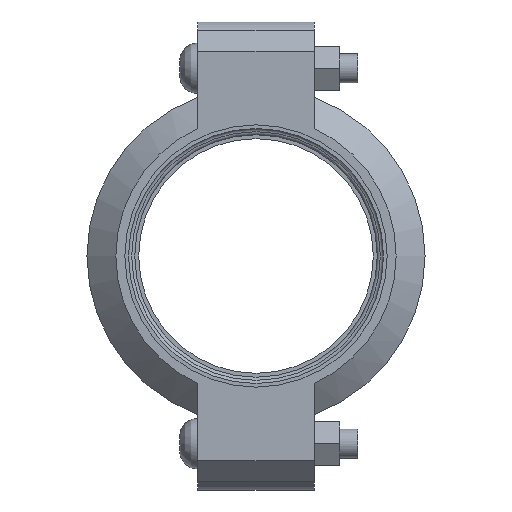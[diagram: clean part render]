
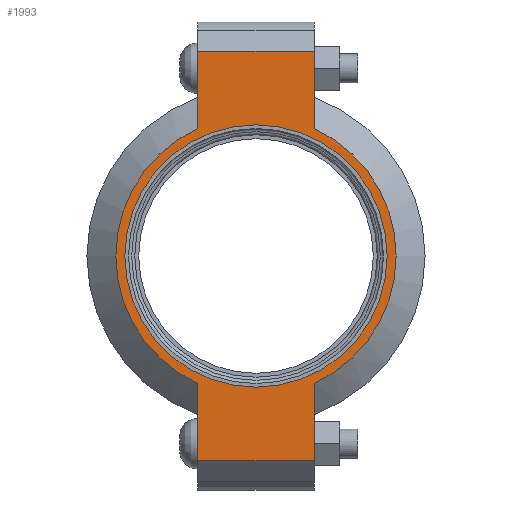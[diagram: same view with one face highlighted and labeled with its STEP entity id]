
A CAD part, left-side view. The second image highlights one B-rep face of the part: STEP entity #1993.
In plain terms, the highlighted planar face has unit normal (-1, 0, 0) as drawn and (0, 0, 1) by its records, which use the part's own axes.
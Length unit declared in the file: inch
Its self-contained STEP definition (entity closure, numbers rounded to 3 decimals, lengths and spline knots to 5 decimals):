
#126=LINE('',#3556,#225);
#134=LINE('',#3592,#233);
#141=LINE('',#3613,#240);
#150=LINE('',#3645,#249);
#151=LINE('',#3649,#250);
#152=LINE('',#3651,#251);
#225=VECTOR('',#2922,0.3937);
#233=VECTOR('',#2938,0.3937);
#240=VECTOR('',#2957,0.3937);
#249=VECTOR('',#2982,0.3937);
#250=VECTOR('',#2987,0.3937);
#251=VECTOR('',#2988,0.3937);
#311=FACE_BOUND('',#581,.T.);
#357=PLANE('',#2358);
#453=FACE_OUTER_BOUND('',#580,.T.);
#580=EDGE_LOOP('',(#1722,#1723,#1724,#1725,#1726,#1727,#1728,#1729));
#581=EDGE_LOOP('',(#1730));
#728=CIRCLE('',#2300,2.25);
#754=CIRCLE('',#2359,2.405);
#755=CIRCLE('',#2360,2.405);
#879=VERTEX_POINT('',#3372);
#922=VERTEX_POINT('',#3553);
#923=VERTEX_POINT('',#3555);
#934=VERTEX_POINT('',#3587);
#935=VERTEX_POINT('',#3591);
#942=VERTEX_POINT('',#3610);
#943=VERTEX_POINT('',#3612);
#953=VERTEX_POINT('',#3648);
#954=VERTEX_POINT('',#3650);
#1116=EDGE_CURVE('',#879,#879,#728,.T.);
#1177=EDGE_CURVE('',#923,#922,#126,.T.);
#1191=EDGE_CURVE('',#935,#934,#134,.T.);
#1201=EDGE_CURVE('',#943,#942,#141,.T.);
#1216=EDGE_CURVE('',#935,#922,#150,.T.);
#1217=EDGE_CURVE('',#934,#943,#754,.T.);
#1218=EDGE_CURVE('',#953,#942,#151,.T.);
#1219=EDGE_CURVE('',#953,#954,#152,.T.);
#1220=EDGE_CURVE('',#954,#923,#755,.T.);
#1722=ORIENTED_EDGE('',*,*,#1216,.F.);
#1723=ORIENTED_EDGE('',*,*,#1191,.T.);
#1724=ORIENTED_EDGE('',*,*,#1217,.T.);
#1725=ORIENTED_EDGE('',*,*,#1201,.T.);
#1726=ORIENTED_EDGE('',*,*,#1218,.F.);
#1727=ORIENTED_EDGE('',*,*,#1219,.T.);
#1728=ORIENTED_EDGE('',*,*,#1220,.T.);
#1729=ORIENTED_EDGE('',*,*,#1177,.T.);
#1730=ORIENTED_EDGE('',*,*,#1116,.T.);
#1993=ADVANCED_FACE('',(#453,#311),#357,.T.);
#2300=AXIS2_PLACEMENT_3D('',#3374,#2798,#2799);
#2358=AXIS2_PLACEMENT_3D('',#3646,#2983,#2984);
#2359=AXIS2_PLACEMENT_3D('',#3647,#2985,#2986);
#2360=AXIS2_PLACEMENT_3D('',#3652,#2989,#2990);
#2798=DIRECTION('center_axis',(0.,0.,-1.));
#2799=DIRECTION('ref_axis',(1.,0.,0.));
#2922=DIRECTION('',(1.,0.,0.));
#2938=DIRECTION('',(-1.,0.,0.));
#2957=DIRECTION('',(-1.,0.,0.));
#2982=DIRECTION('',(0.,-1.,0.));
#2983=DIRECTION('center_axis',(0.,0.,1.));
#2984=DIRECTION('ref_axis',(-1.,0.,0.));
#2985=DIRECTION('center_axis',(0.,0.,1.));
#2986=DIRECTION('ref_axis',(1.,0.,0.));
#2987=DIRECTION('',(0.,1.,0.));
#2988=DIRECTION('',(1.,0.,0.));
#2989=DIRECTION('center_axis',(0.,0.,1.));
#2990=DIRECTION('ref_axis',(1.,0.,0.));
#3372=CARTESIAN_POINT('',(-2.25,0.,1.065));
#3374=CARTESIAN_POINT('Origin',(0.,0.,1.065));
#3553=CARTESIAN_POINT('',(3.515,-1.,1.065));
#3555=CARTESIAN_POINT('',(2.18724,-1.,1.065));
#3556=CARTESIAN_POINT('',(4.015,-1.,1.065));
#3587=CARTESIAN_POINT('',(2.18724,1.,1.065));
#3591=CARTESIAN_POINT('',(3.515,1.,1.065));
#3592=CARTESIAN_POINT('',(-4.015,1.,1.065));
#3610=CARTESIAN_POINT('',(-3.515,1.,1.065));
#3612=CARTESIAN_POINT('',(-2.18724,1.,1.065));
#3613=CARTESIAN_POINT('',(-4.015,1.,1.065));
#3645=CARTESIAN_POINT('',(3.515,-0.5,1.065));
#3646=CARTESIAN_POINT('Origin',(0.,0.,
1.065));
#3647=CARTESIAN_POINT('Origin',(0.,0.,1.065));
#3648=CARTESIAN_POINT('',(-3.515,-1.,1.065));
#3649=CARTESIAN_POINT('',(-3.515,0.5,1.065));
#3650=CARTESIAN_POINT('',(-2.18724,-1.,1.065));
#3651=CARTESIAN_POINT('',(4.015,-1.,1.065));
#3652=CARTESIAN_POINT('Origin',(0.,0.,1.065));
